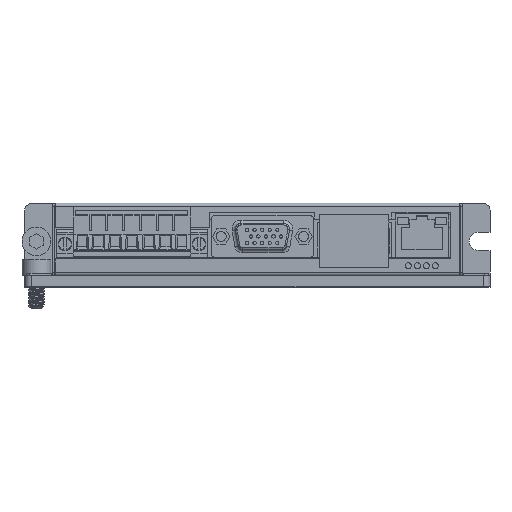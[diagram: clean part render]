
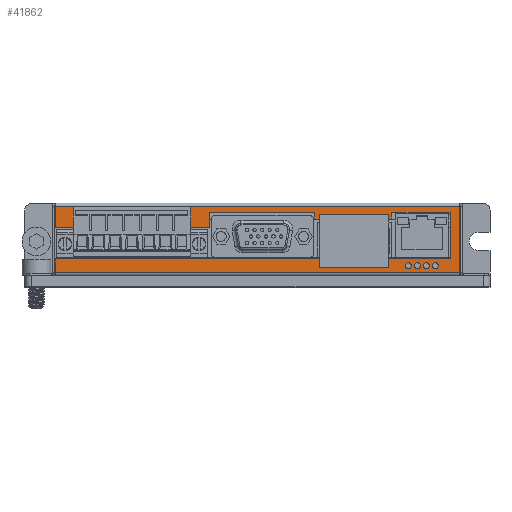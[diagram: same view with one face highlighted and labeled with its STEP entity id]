
A CAD part, top view. The second image highlights one B-rep face of the part: STEP entity #41862.
In plain terms, the highlighted planar face has unit normal (0, 0, 1).
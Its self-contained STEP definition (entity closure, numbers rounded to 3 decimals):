
#39157=DIRECTION('',(-1.,0.,0.));
#39158=VECTOR('',#39157,122.7);
#39159=CARTESIAN_POINT('',(61.35,-0.9,0.));
#39160=LINE('',#39159,#39158);
#39175=CARTESIAN_POINT('',(53.914,-19.,0.));
#39176=DIRECTION('',(0.,0.,1.));
#39177=DIRECTION('',(-1.,0.,0.));
#39178=AXIS2_PLACEMENT_3D('',#39175,#39176,#39177);
#39180=CARTESIAN_POINT('',(53.914,-19.,0.));
#39181=DIRECTION('',(0.,0.,1.));
#39182=DIRECTION('',(1.,0.,0.));
#39183=AXIS2_PLACEMENT_3D('',#39180,#39181,#39182);
#39185=CARTESIAN_POINT('',(51.214,-19.,0.));
#39186=DIRECTION('',(0.,0.,1.));
#39187=DIRECTION('',(-1.,0.,0.));
#39188=AXIS2_PLACEMENT_3D('',#39185,#39186,#39187);
#39190=CARTESIAN_POINT('',(51.214,-19.,0.));
#39191=DIRECTION('',(0.,0.,1.));
#39192=DIRECTION('',(1.,0.,0.));
#39193=AXIS2_PLACEMENT_3D('',#39190,#39191,#39192);
#39195=CARTESIAN_POINT('',(48.514,-19.,0.));
#39196=DIRECTION('',(0.,0.,1.));
#39197=DIRECTION('',(-1.,0.,0.));
#39198=AXIS2_PLACEMENT_3D('',#39195,#39196,#39197);
#39200=CARTESIAN_POINT('',(48.514,-19.,0.));
#39201=DIRECTION('',(0.,0.,1.));
#39202=DIRECTION('',(1.,0.,0.));
#39203=AXIS2_PLACEMENT_3D('',#39200,#39201,#39202);
#39205=CARTESIAN_POINT('',(45.764,-19.,0.));
#39206=DIRECTION('',(0.,0.,1.));
#39207=DIRECTION('',(-1.,0.,0.));
#39208=AXIS2_PLACEMENT_3D('',#39205,#39206,#39207);
#39210=CARTESIAN_POINT('',(45.764,-19.,0.));
#39211=DIRECTION('',(0.,0.,1.));
#39212=DIRECTION('',(1.,0.,0.));
#39213=AXIS2_PLACEMENT_3D('',#39210,#39211,#39212);
#39215=DIRECTION('',(0.,1.,0.));
#39216=VECTOR('',#39215,2.);
#39217=CARTESIAN_POINT('',(-22.844,-7.43,0.));
#39218=LINE('',#39217,#39216);
#39219=DIRECTION('',(-1.,0.,0.));
#39220=VECTOR('',#39219,3.6);
#39221=CARTESIAN_POINT('',(-22.844,-5.43,0.));
#39222=LINE('',#39221,#39220);
#39223=DIRECTION('',(0.,-1.,0.));
#39224=VECTOR('',#39223,2.);
#39225=CARTESIAN_POINT('',(-26.444,-5.43,0.));
#39226=LINE('',#39225,#39224);
#39227=DIRECTION('',(1.,0.,0.));
#39228=VECTOR('',#39227,23.29);
#39229=CARTESIAN_POINT('',(-49.734,-7.43,0.));
#39230=LINE('',#39229,#39228);
#39231=DIRECTION('',(0.,1.,0.));
#39232=VECTOR('',#39231,2.);
#39233=CARTESIAN_POINT('',(-49.734,-7.43,0.));
#39234=LINE('',#39233,#39232);
#39235=DIRECTION('',(-1.,0.,0.));
#39236=VECTOR('',#39235,3.6);
#39237=CARTESIAN_POINT('',(-49.734,-5.43,0.));
#39238=LINE('',#39237,#39236);
#39239=DIRECTION('',(0.,-1.,0.));
#39240=VECTOR('',#39239,2.);
#39241=CARTESIAN_POINT('',(-53.334,-5.43,0.));
#39242=LINE('',#39241,#39240);
#39243=DIRECTION('',(1.,0.,0.));
#39244=VECTOR('',#39243,8.016);
#39245=CARTESIAN_POINT('',(-61.35,-7.43,0.));
#39246=LINE('',#39245,#39244);
#39247=DIRECTION('',(0.,-1.,0.));
#39248=VECTOR('',#39247,6.53);
#39249=CARTESIAN_POINT('',(-61.35,-0.9,0.));
#39250=LINE('',#39249,#39248);
#39251=DIRECTION('',(0.,1.,0.));
#39252=VECTOR('',#39251,20.2);
#39253=CARTESIAN_POINT('',(61.35,-21.1,0.));
#39254=LINE('',#39253,#39252);
#39255=DIRECTION('',(0.,-1.,0.));
#39256=VECTOR('',#39255,4.2);
#39257=CARTESIAN_POINT('',(-61.35,-16.9,0.));
#39258=LINE('',#39257,#39256);
#39259=DIRECTION('',(1.,0.,0.));
#39260=VECTOR('',#39259,119.9);
#39261=CARTESIAN_POINT('',(-61.35,-16.9,0.));
#39262=LINE('',#39261,#39260);
#39263=DIRECTION('',(0.,-1.,0.));
#39264=VECTOR('',#39263,14.1);
#39265=CARTESIAN_POINT('',(58.55,-2.8,0.));
#39266=LINE('',#39265,#39264);
#39267=DIRECTION('',(1.,0.,0.));
#39268=VECTOR('',#39267,17.821);
#39269=CARTESIAN_POINT('',(40.729,-2.8,0.));
#39270=LINE('',#39269,#39268);
#39271=DIRECTION('',(0.,1.,0.));
#39272=VECTOR('',#39271,2.1);
#39273=CARTESIAN_POINT('',(40.729,-4.9,0.));
#39274=LINE('',#39273,#39272);
#39275=DIRECTION('',(1.,0.,0.));
#39276=VECTOR('',#39275,23.348);
#39277=CARTESIAN_POINT('',(17.382,-4.9,0.));
#39278=LINE('',#39277,#39276);
#39279=DIRECTION('',(0.,-1.,0.));
#39280=VECTOR('',#39279,2.05);
#39281=CARTESIAN_POINT('',(17.382,-2.85,0.));
#39282=LINE('',#39281,#39280);
#39283=DIRECTION('',(1.,0.,0.));
#39284=VECTOR('',#39283,31.852);
#39285=CARTESIAN_POINT('',(-14.47,-2.85,0.));
#39286=LINE('',#39285,#39284);
#39287=DIRECTION('',(0.,1.,0.));
#39288=VECTOR('',#39287,4.58);
#39289=CARTESIAN_POINT('',(-14.47,-7.43,0.));
#39290=LINE('',#39289,#39288);
#39291=DIRECTION('',(1.,0.,0.));
#39292=VECTOR('',#39291,8.374);
#39293=CARTESIAN_POINT('',(-22.844,-7.43,0.));
#39294=LINE('',#39293,#39292);
#39504=DIRECTION('',(-1.,0.,0.));
#39505=VECTOR('',#39504,122.7);
#39506=CARTESIAN_POINT('',(61.35,-21.1,0.));
#39507=LINE('',#39506,#39505);
#41605=CARTESIAN_POINT('',(-61.35,-21.1,0.));
#41606=VERTEX_POINT('',#41605);
#41607=CARTESIAN_POINT('',(61.35,-21.1,0.));
#41608=VERTEX_POINT('',#41607);
#41629=CARTESIAN_POINT('',(61.35,-0.9,0.));
#41630=CARTESIAN_POINT('',(-61.35,-0.9,0.));
#41631=VERTEX_POINT('',#41629);
#41632=VERTEX_POINT('',#41630);
#41637=CARTESIAN_POINT('',(-14.47,-7.43,0.));
#41638=CARTESIAN_POINT('',(-14.47,-2.85,0.));
#41639=VERTEX_POINT('',#41637);
#41640=VERTEX_POINT('',#41638);
#41641=CARTESIAN_POINT('',(17.382,-2.85,0.));
#41642=VERTEX_POINT('',#41641);
#41643=CARTESIAN_POINT('',(17.382,-4.9,0.));
#41644=VERTEX_POINT('',#41643);
#41645=CARTESIAN_POINT('',(40.729,-4.9,0.));
#41646=VERTEX_POINT('',#41645);
#41647=CARTESIAN_POINT('',(40.729,-2.8,0.));
#41648=VERTEX_POINT('',#41647);
#41649=CARTESIAN_POINT('',(58.55,-2.8,0.));
#41650=VERTEX_POINT('',#41649);
#41651=CARTESIAN_POINT('',(58.55,-16.9,0.));
#41652=VERTEX_POINT('',#41651);
#41653=CARTESIAN_POINT('',(-61.35,-16.9,0.));
#41654=VERTEX_POINT('',#41653);
#41655=CARTESIAN_POINT('',(-61.35,-7.43,0.));
#41656=VERTEX_POINT('',#41655);
#41677=CARTESIAN_POINT('',(53.014,-19.,0.));
#41678=CARTESIAN_POINT('',(54.814,-19.,0.));
#41679=VERTEX_POINT('',#41677);
#41680=VERTEX_POINT('',#41678);
#41681=CARTESIAN_POINT('',(50.314,-19.,0.));
#41682=CARTESIAN_POINT('',(52.114,-19.,0.));
#41683=VERTEX_POINT('',#41681);
#41684=VERTEX_POINT('',#41682);
#41685=CARTESIAN_POINT('',(47.614,-19.,0.));
#41686=CARTESIAN_POINT('',(49.414,-19.,0.));
#41687=VERTEX_POINT('',#41685);
#41688=VERTEX_POINT('',#41686);
#41689=CARTESIAN_POINT('',(44.864,-19.,0.));
#41690=CARTESIAN_POINT('',(46.664,-19.,0.));
#41691=VERTEX_POINT('',#41689);
#41692=VERTEX_POINT('',#41690);
#41709=CARTESIAN_POINT('',(-22.844,-7.43,0.));
#41710=CARTESIAN_POINT('',(-22.844,-5.43,0.));
#41711=VERTEX_POINT('',#41709);
#41712=VERTEX_POINT('',#41710);
#41713=CARTESIAN_POINT('',(-26.444,-5.43,0.));
#41714=VERTEX_POINT('',#41713);
#41715=CARTESIAN_POINT('',(-26.444,-7.43,0.));
#41716=VERTEX_POINT('',#41715);
#41717=CARTESIAN_POINT('',(-49.734,-7.43,0.));
#41718=CARTESIAN_POINT('',(-49.734,-5.43,0.));
#41719=VERTEX_POINT('',#41717);
#41720=VERTEX_POINT('',#41718);
#41721=CARTESIAN_POINT('',(-53.334,-5.43,0.));
#41722=VERTEX_POINT('',#41721);
#41723=CARTESIAN_POINT('',(-53.334,-7.43,0.));
#41724=VERTEX_POINT('',#41723);
#41788=CARTESIAN_POINT('',(-61.35,0.,0.));
#41789=DIRECTION('',(0.,0.,1.));
#41790=DIRECTION('',(-1.,0.,0.));
#41791=AXIS2_PLACEMENT_3D('',#41788,#41789,#41790);
#41792=PLANE('',#41791);
#41794=ORIENTED_EDGE('',*,*,#41793,.T.);
#41796=ORIENTED_EDGE('',*,*,#41795,.T.);
#41798=ORIENTED_EDGE('',*,*,#41797,.T.);
#41800=ORIENTED_EDGE('',*,*,#41799,.F.);
#41802=ORIENTED_EDGE('',*,*,#41801,.T.);
#41804=ORIENTED_EDGE('',*,*,#41803,.T.);
#41806=ORIENTED_EDGE('',*,*,#41805,.T.);
#41808=ORIENTED_EDGE('',*,*,#41807,.F.);
#41810=ORIENTED_EDGE('',*,*,#41809,.F.);
#41811=ORIENTED_EDGE('',*,*,#41778,.F.);
#41813=ORIENTED_EDGE('',*,*,#41812,.F.);
#41815=ORIENTED_EDGE('',*,*,#41814,.T.);
#41817=ORIENTED_EDGE('',*,*,#41816,.F.);
#41819=ORIENTED_EDGE('',*,*,#41818,.T.);
#41821=ORIENTED_EDGE('',*,*,#41820,.F.);
#41823=ORIENTED_EDGE('',*,*,#41822,.F.);
#41825=ORIENTED_EDGE('',*,*,#41824,.F.);
#41827=ORIENTED_EDGE('',*,*,#41826,.F.);
#41829=ORIENTED_EDGE('',*,*,#41828,.F.);
#41831=ORIENTED_EDGE('',*,*,#41830,.F.);
#41833=ORIENTED_EDGE('',*,*,#41832,.F.);
#41835=ORIENTED_EDGE('',*,*,#41834,.F.);
#41836=EDGE_LOOP('',(#41794,#41796,#41798,#41800,#41802,#41804,#41806,#41808,
#41810,#41811,#41813,#41815,#41817,#41819,#41821,#41823,#41825,#41827,#41829,
#41831,#41833,#41835));
#41837=FACE_OUTER_BOUND('',#41836,.F.);
#41839=ORIENTED_EDGE('',*,*,#41838,.T.);
#41841=ORIENTED_EDGE('',*,*,#41840,.T.);
#41842=EDGE_LOOP('',(#41839,#41841));
#41843=FACE_BOUND('',#41842,.F.);
#41845=ORIENTED_EDGE('',*,*,#41844,.T.);
#41847=ORIENTED_EDGE('',*,*,#41846,.T.);
#41848=EDGE_LOOP('',(#41845,#41847));
#41849=FACE_BOUND('',#41848,.F.);
#41851=ORIENTED_EDGE('',*,*,#41850,.T.);
#41853=ORIENTED_EDGE('',*,*,#41852,.T.);
#41854=EDGE_LOOP('',(#41851,#41853));
#41855=FACE_BOUND('',#41854,.F.);
#41857=ORIENTED_EDGE('',*,*,#41856,.T.);
#41859=ORIENTED_EDGE('',*,*,#41858,.T.);
#41860=EDGE_LOOP('',(#41857,#41859));
#41861=FACE_BOUND('',#41860,.F.);
#41862=ADVANCED_FACE('',(#41837,#41843,#41849,#41855,#41861),#41792,.T.);
#39179=CIRCLE('',#39178,0.9);
#39184=CIRCLE('',#39183,0.9);
#39189=CIRCLE('',#39188,0.9);
#39194=CIRCLE('',#39193,0.9);
#39199=CIRCLE('',#39198,0.9);
#39204=CIRCLE('',#39203,0.9);
#39209=CIRCLE('',#39208,0.9);
#39214=CIRCLE('',#39213,0.9);
#41778=EDGE_CURVE('',#41631,#41632,#39160,.T.);
#41793=EDGE_CURVE('',#41711,#41712,#39218,.T.);
#41795=EDGE_CURVE('',#41712,#41714,#39222,.T.);
#41797=EDGE_CURVE('',#41714,#41716,#39226,.T.);
#41799=EDGE_CURVE('',#41719,#41716,#39230,.T.);
#41801=EDGE_CURVE('',#41719,#41720,#39234,.T.);
#41803=EDGE_CURVE('',#41720,#41722,#39238,.T.);
#41805=EDGE_CURVE('',#41722,#41724,#39242,.T.);
#41807=EDGE_CURVE('',#41656,#41724,#39246,.T.);
#41809=EDGE_CURVE('',#41632,#41656,#39250,.T.);
#41812=EDGE_CURVE('',#41608,#41631,#39254,.T.);
#41814=EDGE_CURVE('',#41608,#41606,#39507,.T.);
#41816=EDGE_CURVE('',#41654,#41606,#39258,.T.);
#41818=EDGE_CURVE('',#41654,#41652,#39262,.T.);
#41820=EDGE_CURVE('',#41650,#41652,#39266,.T.);
#41822=EDGE_CURVE('',#41648,#41650,#39270,.T.);
#41824=EDGE_CURVE('',#41646,#41648,#39274,.T.);
#41826=EDGE_CURVE('',#41644,#41646,#39278,.T.);
#41828=EDGE_CURVE('',#41642,#41644,#39282,.T.);
#41830=EDGE_CURVE('',#41640,#41642,#39286,.T.);
#41832=EDGE_CURVE('',#41639,#41640,#39290,.T.);
#41834=EDGE_CURVE('',#41711,#41639,#39294,.T.);
#41838=EDGE_CURVE('',#41683,#41684,#39189,.T.);
#41840=EDGE_CURVE('',#41684,#41683,#39194,.T.);
#41844=EDGE_CURVE('',#41687,#41688,#39199,.T.);
#41846=EDGE_CURVE('',#41688,#41687,#39204,.T.);
#41850=EDGE_CURVE('',#41691,#41692,#39209,.T.);
#41852=EDGE_CURVE('',#41692,#41691,#39214,.T.);
#41856=EDGE_CURVE('',#41679,#41680,#39179,.T.);
#41858=EDGE_CURVE('',#41680,#41679,#39184,.T.);
